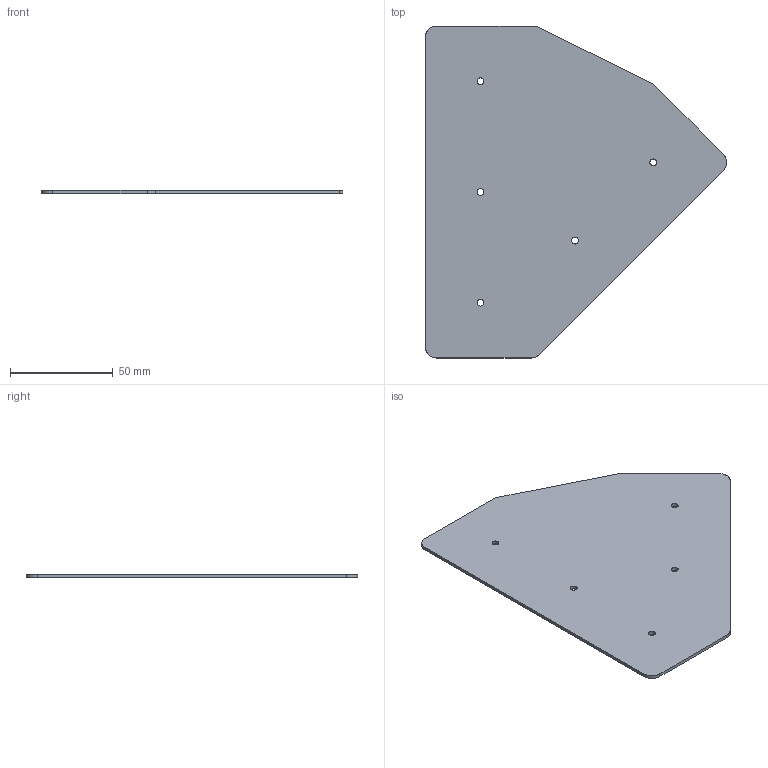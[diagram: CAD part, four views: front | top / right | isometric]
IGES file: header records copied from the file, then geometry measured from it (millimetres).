
Start section: SolidWorks IGES file using analytic representation for surfaces
Global section: file name: C:\Working\Gusset Convert\DRP-002-0005-02.igs; native system: SolidWorks 2010; preprocessor: SolidWorks 2010; author: mbush2; date: 100624.085916; units: inch
Bounding box: 147.09 x 161.93 x 1.59 mm (x, y, z)
Surface area: 34806.3 mm2 (no closed solid volume)
Topology: 0 solids, 0 shells, 24 faces, 324 edges, 324 vertices
Faces by surface type: revolution 16, bspline 8
